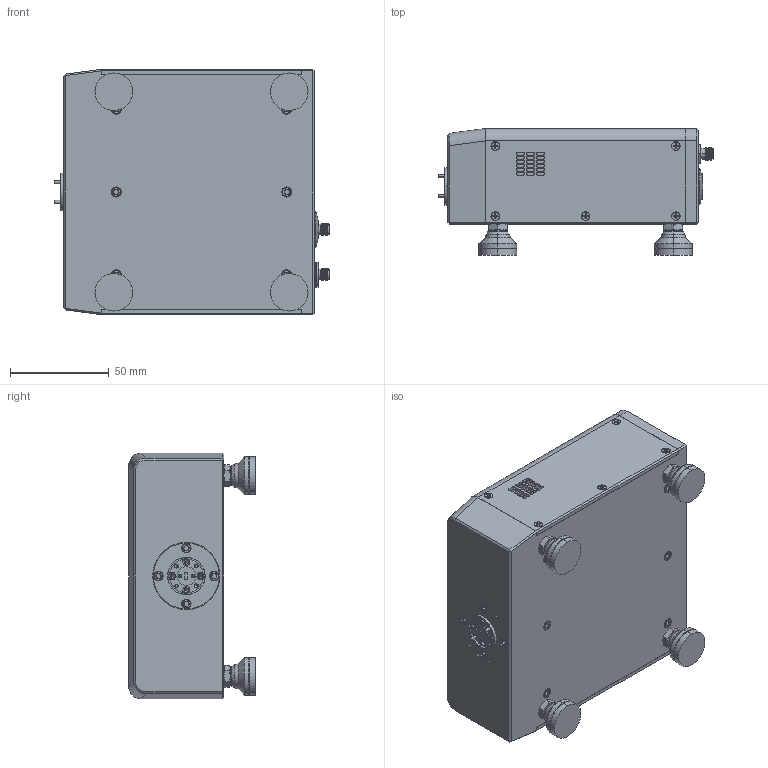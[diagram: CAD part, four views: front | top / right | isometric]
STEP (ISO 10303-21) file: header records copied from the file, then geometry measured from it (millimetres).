
FILE_DESCRIPTION (( 'STEP AP214' ), '1' );
FILE_NAME ('TC-E-A, with feet.STEP', '2024-05-13T21:05:25', ( '' ), ( '' ), 'SwSTEP 2.0', 'SolidWorks 2021', '' );
FILE_SCHEMA (( 'AUTOMOTIVE_DESIGN' ));
Length unit declared in the file: inch
Products named in the file (1): TC-E-A, with feet
Bounding box: 139.21 x 64.14 x 124.32 mm (x, y, z)
Volume: 764162.5 mm3; surface area: 72933 mm2
Topology: 11 solids, 20 shells, 1886 faces, 4836 edges, 3068 vertices
Faces by surface type: plane 796, cylinder 607, cone 416, bspline 48, sphere 17, torus 2
Entity records: 105429 total; most frequent: CARTESIAN_POINT 38493, ORIENTED_EDGE 9500, DIRECTION 8626, EDGE_CURVE 4750, AXIS2_PLACEMENT_3D 3214, VERTEX_POINT 3043, LINE 2198, VECTOR 2198
